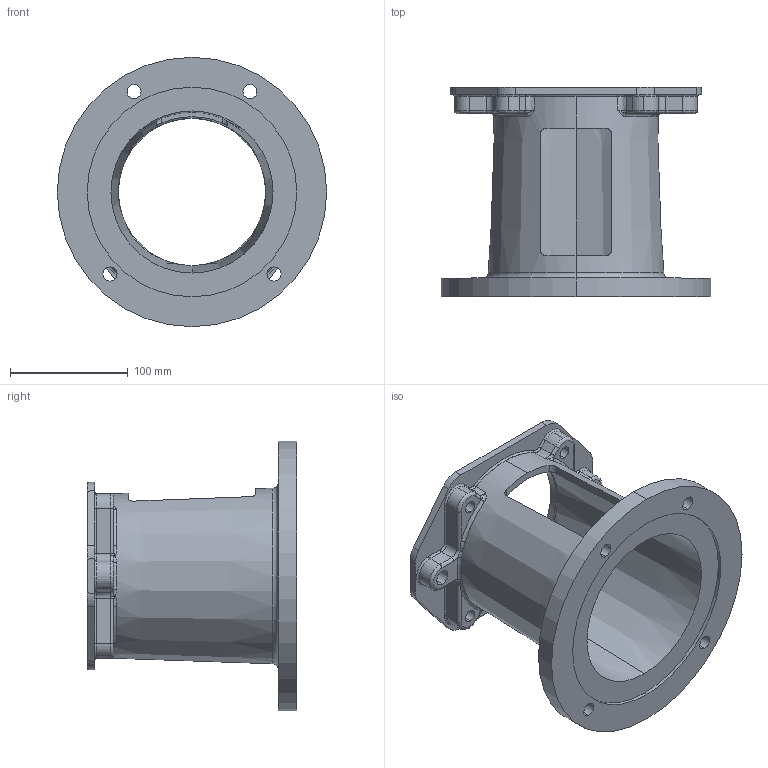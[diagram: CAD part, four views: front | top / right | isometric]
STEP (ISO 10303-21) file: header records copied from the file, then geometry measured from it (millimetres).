
FILE_DESCRIPTION (( 'STEP AP203' ), '1' );
FILE_NAME ('E70070125M.STEP', '2014-11-04T13:29:16', ( '' ), ( '' ), 'SwSTEP 2.0', 'SolidWorks 2014', '' );
FILE_SCHEMA (( 'CONFIG_CONTROL_DESIGN' ));
Length unit declared in the file: inch
Products named in the file (1): E70070125M
Bounding box: 228.6 x 177.8 x 228.6 mm (x, y, z)
Volume: 929759.1 mm3; surface area: 234086.8 mm2
Topology: 1 solids, 1 shells, 238 faces, 615 edges, 368 vertices
Faces by surface type: cylinder 74, torus 57, bspline 52, plane 35, sphere 16, cone 4
Entity records: 9309 total; most frequent: CARTESIAN_POINT 3740, ORIENTED_EDGE 1206, DIRECTION 1134, EDGE_CURVE 603, AXIS2_PLACEMENT_3D 496, VERTEX_POINT 368, CIRCLE 309, EDGE_LOOP 263
